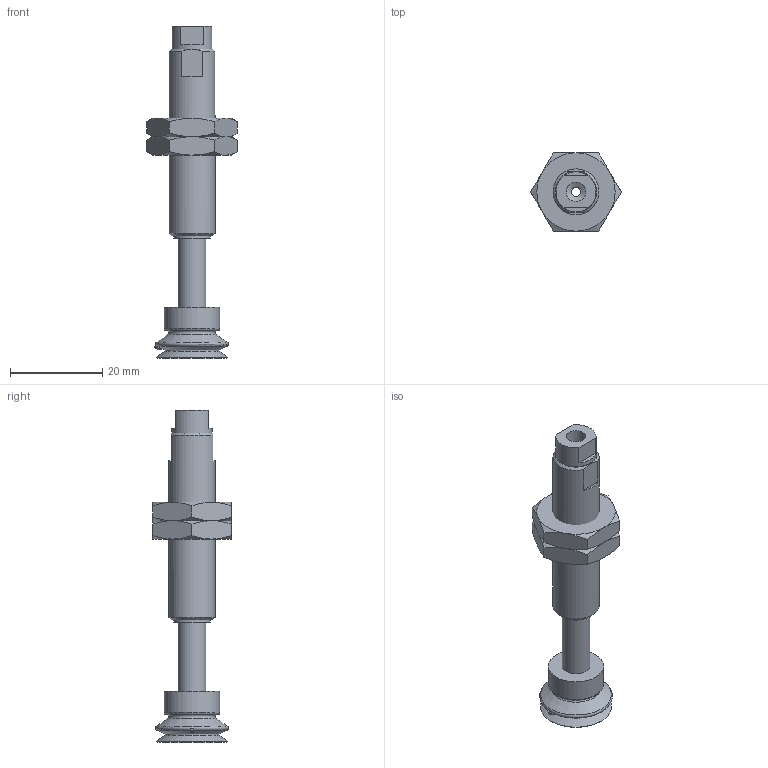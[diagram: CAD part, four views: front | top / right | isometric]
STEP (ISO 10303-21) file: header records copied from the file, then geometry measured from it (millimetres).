
FILE_DESCRIPTION(('STEP AP203'),'1');
FILE_NAME('-LB.stp','2025-10-10T06:05:14',(' '),(' '),'Spatial InterOp 3D',' ',' ');
FILE_SCHEMA(('CONFIG_CONTROL_DESIGN'));
Length unit declared in the file: millimetre
Products named in the file (7): BNABPJTH-15-15-※-LB; NUT; __; BODY; TN-PF-15-M5; BPJG-15-※
Assembly tree (6 placements, depth 2):
  BNABPJTH-15-15-※-LB
    NUT
    NUT
    __
    BODY
    TN-PF-15-M5
    BPJG-15-※
Bounding box: 19.63 x 17 x 72 mm (x, y, z)
Volume: 6065.1 mm3; surface area: 5156.6 mm2
Topology: 6 solids, 6 shells, 118 faces, 257 edges, 154 vertices
Faces by surface type: plane 45, cone 39, cylinder 15, torus 9, bspline 6, sphere 4
Full cylindrical faces by diameter (mm): 2 x1, 2.5 x1, 4.2 x2, 4.6 x1, 5 x1, 6 x1, 7.9 x1, 8 x2, 8.7 x1, 9 x2, 10 x1, 12 x1
Entity records: 3466 total; most frequent: CARTESIAN_POINT 802, DIRECTION 488, ORIENTED_EDGE 424, AXIS2_PLACEMENT_3D 217, EDGE_CURVE 212, EDGE_LOOP 167, VERTEX_POINT 143, FACE_OUTER_BOUND 140
